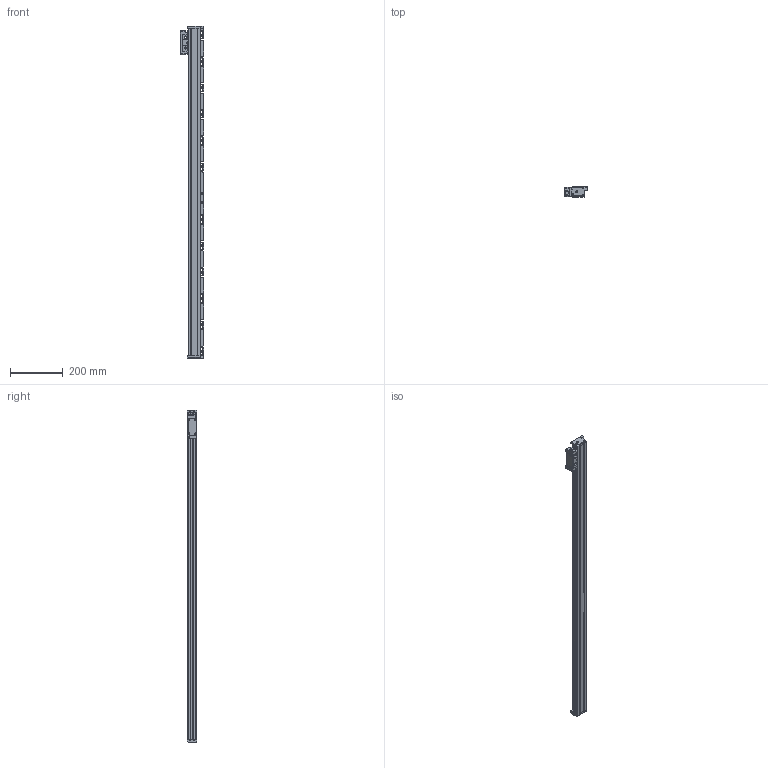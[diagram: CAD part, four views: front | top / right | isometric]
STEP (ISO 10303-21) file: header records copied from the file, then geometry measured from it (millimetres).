
FILE_DESCRIPTION(/* description */ (''),/* implementation_level */ '2;1');
FILE_NAME(/* name */ 'JC21A-1140-1.stp',/* time_stamp */ '2023-12-21T16:39:37+08:00',/* author */ (''),/* organization */ (''),/* preprocessor_version */ 'ST-DEVELOPER v14',/* originating_system */ 'SIEMENS PLM Software NX 8.0',/* authorisation */ '');
FILE_SCHEMA (('CONFIG_CONTROL_DESIGN'));
Length unit declared in the file: millimetre
Products named in the file (1): JC21A-1140-1
Bounding box: 87.5 x 37 x 1261 mm (x, y, z)
Volume: 2005623.8 mm3; surface area: 335021.5 mm2
Topology: 4 solids, 6 shells, 841 faces, 2466 edges, 1637 vertices
Faces by surface type: plane 524, cylinder 285, cone 22, bspline 8, extrusion 2
Full cylindrical faces by diameter (mm): 2.5 x12, 3.3 x6, 3.7 x4, 4.2 x4, 5 x2, 6 x6, 6.6 x2, 6.8 x14, 7 x2, 13.2 x2
Entity records: 28377 total; most frequent: CARTESIAN_POINT 5775, ORIENTED_EDGE 4720, DIRECTION 4664, EDGE_CURVE 2360, VERTEX_POINT 1607, VECTOR 1558, LINE 1556, AXIS2_PLACEMENT_3D 1553
